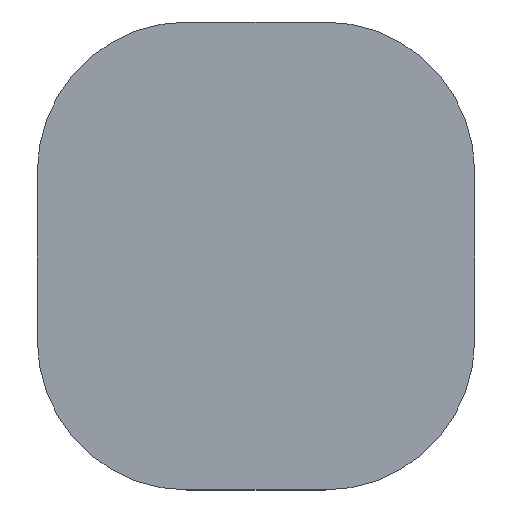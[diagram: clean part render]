
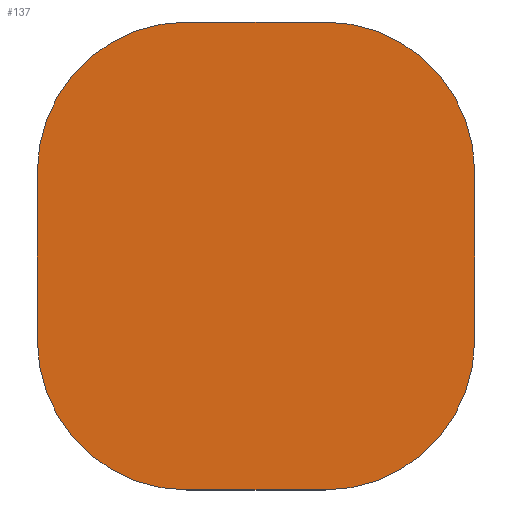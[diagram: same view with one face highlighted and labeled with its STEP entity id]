
A CAD part, top view. The second image highlights one B-rep face of the part: STEP entity #137.
In plain terms, the highlighted planar face has unit normal (0, 0, 1).
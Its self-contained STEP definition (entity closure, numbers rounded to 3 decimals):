
#21 = EDGE_CURVE('',#22,#24,#26,.T.);
#22 = VERTEX_POINT('',#23);
#23 = CARTESIAN_POINT('',(-28.5,17.,11.88));
#24 = VERTEX_POINT('',#25);
#25 = CARTESIAN_POINT('',(-28.5,39.,11.88));
#26 = SURFACE_CURVE('',#27,(#31,#43),.PCURVE_S1.);
#27 = LINE('',#28,#29);
#28 = CARTESIAN_POINT('',(-28.5,-2.5,11.88));
#29 = VECTOR('',#30,1.);
#30 = DIRECTION('',(0.,1.,0.));
#31 = PCURVE('',#32,#37);
#32 = PLANE('',#33);
#33 = AXIS2_PLACEMENT_3D('',#34,#35,#36);
#34 = CARTESIAN_POINT('',(-28.5,-2.5,11.78));
#35 = DIRECTION('',(1.,0.,0.));
#36 = DIRECTION('',(0.,0.,1.));
#37 = DEFINITIONAL_REPRESENTATION('',(#38),#42);
#38 = LINE('',#39,#40);
#39 = CARTESIAN_POINT('',(0.1,0.));
#40 = VECTOR('',#41,1.);
#41 = DIRECTION('',(0.,-1.));
#42 = ( GEOMETRIC_REPRESENTATION_CONTEXT(2) 
PARAMETRIC_REPRESENTATION_CONTEXT() REPRESENTATION_CONTEXT('2D SPACE',''
  ) );
#43 = PCURVE('',#44,#49);
#44 = PLANE('',#45);
#45 = AXIS2_PLACEMENT_3D('',#46,#47,#48);
#46 = CARTESIAN_POINT('',(-28.5,-2.5,11.88));
#47 = DIRECTION('',(0.,0.,1.));
#48 = DIRECTION('',(1.,0.,-0.));
#49 = DEFINITIONAL_REPRESENTATION('',(#50),#54);
#50 = LINE('',#51,#52);
#51 = CARTESIAN_POINT('',(0.,0.));
#52 = VECTOR('',#53,1.);
#53 = DIRECTION('',(0.,1.));
#54 = ( GEOMETRIC_REPRESENTATION_CONTEXT(2) 
PARAMETRIC_REPRESENTATION_CONTEXT() REPRESENTATION_CONTEXT('2D SPACE',''
  ) );
#72 = CYLINDRICAL_SURFACE('',#73,19.5);
#73 = AXIS2_PLACEMENT_3D('',#74,#75,#76);
#74 = CARTESIAN_POINT('',(-9.,17.,11.78));
#75 = DIRECTION('',(0.,0.,1.));
#76 = DIRECTION('',(-1.,-0.,0.));
#126 = CYLINDRICAL_SURFACE('',#127,19.5);
#127 = AXIS2_PLACEMENT_3D('',#128,#129,#130);
#128 = CARTESIAN_POINT('',(-9.,39.,11.78));
#129 = DIRECTION('',(0.,0.,1.));
#130 = DIRECTION('',(-1.,-0.,0.));
#137 = ADVANCED_FACE('',(#138),#44,.T.);
#138 = FACE_BOUND('',#139,.T.);
#139 = EDGE_LOOP('',(#140,#141,#165,#193,#226,#254,#283,#311));
#140 = ORIENTED_EDGE('',*,*,#21,.F.);
#141 = ORIENTED_EDGE('',*,*,#142,.T.);
#142 = EDGE_CURVE('',#22,#143,#145,.T.);
#143 = VERTEX_POINT('',#144);
#144 = CARTESIAN_POINT('',(-9.,-2.5,11.88));
#145 = SURFACE_CURVE('',#146,(#151,#158),.PCURVE_S1.);
#146 = CIRCLE('',#147,19.5);
#147 = AXIS2_PLACEMENT_3D('',#148,#149,#150);
#148 = CARTESIAN_POINT('',(-9.,17.,11.88));
#149 = DIRECTION('',(0.,0.,1.));
#150 = DIRECTION('',(0.,-1.,0.));
#151 = PCURVE('',#44,#152);
#152 = DEFINITIONAL_REPRESENTATION('',(#153),#157);
#153 = CIRCLE('',#154,19.5);
#154 = AXIS2_PLACEMENT_2D('',#155,#156);
#155 = CARTESIAN_POINT('',(19.5,19.5));
#156 = DIRECTION('',(0.,-1.));
#157 = ( GEOMETRIC_REPRESENTATION_CONTEXT(2) 
PARAMETRIC_REPRESENTATION_CONTEXT() REPRESENTATION_CONTEXT('2D SPACE',''
  ) );
#158 = PCURVE('',#72,#159);
#159 = DEFINITIONAL_REPRESENTATION('',(#160),#164);
#160 = LINE('',#161,#162);
#161 = CARTESIAN_POINT('',(-4.712,0.1));
#162 = VECTOR('',#163,1.);
#163 = DIRECTION('',(1.,0.));
#164 = ( GEOMETRIC_REPRESENTATION_CONTEXT(2) 
PARAMETRIC_REPRESENTATION_CONTEXT() REPRESENTATION_CONTEXT('2D SPACE',''
  ) );
#165 = ORIENTED_EDGE('',*,*,#166,.T.);
#166 = EDGE_CURVE('',#143,#167,#169,.T.);
#167 = VERTEX_POINT('',#168);
#168 = CARTESIAN_POINT('',(9.,-2.5,11.88));
#169 = SURFACE_CURVE('',#170,(#174,#181),.PCURVE_S1.);
#170 = LINE('',#171,#172);
#171 = CARTESIAN_POINT('',(-28.5,-2.5,11.88));
#172 = VECTOR('',#173,1.);
#173 = DIRECTION('',(1.,0.,0.));
#174 = PCURVE('',#44,#175);
#175 = DEFINITIONAL_REPRESENTATION('',(#176),#180);
#176 = LINE('',#177,#178);
#177 = CARTESIAN_POINT('',(0.,0.));
#178 = VECTOR('',#179,1.);
#179 = DIRECTION('',(1.,0.));
#180 = ( GEOMETRIC_REPRESENTATION_CONTEXT(2) 
PARAMETRIC_REPRESENTATION_CONTEXT() REPRESENTATION_CONTEXT('2D SPACE',''
  ) );
#181 = PCURVE('',#182,#187);
#182 = PLANE('',#183);
#183 = AXIS2_PLACEMENT_3D('',#184,#185,#186);
#184 = CARTESIAN_POINT('',(-28.5,-2.5,11.78));
#185 = DIRECTION('',(0.,1.,0.));
#186 = DIRECTION('',(0.,-0.,1.));
#187 = DEFINITIONAL_REPRESENTATION('',(#188),#192);
#188 = LINE('',#189,#190);
#189 = CARTESIAN_POINT('',(0.1,0.));
#190 = VECTOR('',#191,1.);
#191 = DIRECTION('',(0.,1.));
#192 = ( GEOMETRIC_REPRESENTATION_CONTEXT(2) 
PARAMETRIC_REPRESENTATION_CONTEXT() REPRESENTATION_CONTEXT('2D SPACE',''
  ) );
#193 = ORIENTED_EDGE('',*,*,#194,.F.);
#194 = EDGE_CURVE('',#195,#167,#197,.T.);
#195 = VERTEX_POINT('',#196);
#196 = CARTESIAN_POINT('',(28.5,17.,11.88));
#197 = SURFACE_CURVE('',#198,(#203,#214),.PCURVE_S1.);
#198 = CIRCLE('',#199,19.5);
#199 = AXIS2_PLACEMENT_3D('',#200,#201,#202);
#200 = CARTESIAN_POINT('',(9.,17.,11.88));
#201 = DIRECTION('',(-0.,-0.,-1.));
#202 = DIRECTION('',(0.,-1.,0.));
#203 = PCURVE('',#44,#204);
#204 = DEFINITIONAL_REPRESENTATION('',(#205),#213);
#205 = ( BOUNDED_CURVE() B_SPLINE_CURVE(2,(#206,#207,#208,#209,#210,#211
,#212),.UNSPECIFIED.,.T.,.F.) B_SPLINE_CURVE_WITH_KNOTS((1,2,2,2,2,1),(
    -2.094,0.,2.094,4.189,6.283,
8.378),.UNSPECIFIED.) CURVE() GEOMETRIC_REPRESENTATION_ITEM() 
RATIONAL_B_SPLINE_CURVE((1.,0.5,1.,0.5,1.,0.5,1.)) REPRESENTATION_ITEM(
  '') );
#206 = CARTESIAN_POINT('',(37.5,0.));
#207 = CARTESIAN_POINT('',(3.725,0.));
#208 = CARTESIAN_POINT('',(20.613,29.25));
#209 = CARTESIAN_POINT('',(37.5,58.5));
#210 = CARTESIAN_POINT('',(54.387,29.25));
#211 = CARTESIAN_POINT('',(71.275,0.));
#212 = CARTESIAN_POINT('',(37.5,0.));
#213 = ( GEOMETRIC_REPRESENTATION_CONTEXT(2) 
PARAMETRIC_REPRESENTATION_CONTEXT() REPRESENTATION_CONTEXT('2D SPACE',''
  ) );
#214 = PCURVE('',#215,#220);
#215 = CYLINDRICAL_SURFACE('',#216,19.5);
#216 = AXIS2_PLACEMENT_3D('',#217,#218,#219);
#217 = CARTESIAN_POINT('',(9.,17.,11.78));
#218 = DIRECTION('',(0.,0.,1.));
#219 = DIRECTION('',(1.,0.,-0.));
#220 = DEFINITIONAL_REPRESENTATION('',(#221),#225);
#221 = LINE('',#222,#223);
#222 = CARTESIAN_POINT('',(10.996,0.1));
#223 = VECTOR('',#224,1.);
#224 = DIRECTION('',(-1.,0.));
#225 = ( GEOMETRIC_REPRESENTATION_CONTEXT(2) 
PARAMETRIC_REPRESENTATION_CONTEXT() REPRESENTATION_CONTEXT('2D SPACE',''
  ) );
#226 = ORIENTED_EDGE('',*,*,#227,.T.);
#227 = EDGE_CURVE('',#195,#228,#230,.T.);
#228 = VERTEX_POINT('',#229);
#229 = CARTESIAN_POINT('',(28.5,39.,11.88));
#230 = SURFACE_CURVE('',#231,(#235,#242),.PCURVE_S1.);
#231 = LINE('',#232,#233);
#232 = CARTESIAN_POINT('',(28.5,-2.5,11.88));
#233 = VECTOR('',#234,1.);
#234 = DIRECTION('',(0.,1.,0.));
#235 = PCURVE('',#44,#236);
#236 = DEFINITIONAL_REPRESENTATION('',(#237),#241);
#237 = LINE('',#238,#239);
#238 = CARTESIAN_POINT('',(57.,0.));
#239 = VECTOR('',#240,1.);
#240 = DIRECTION('',(0.,1.));
#241 = ( GEOMETRIC_REPRESENTATION_CONTEXT(2) 
PARAMETRIC_REPRESENTATION_CONTEXT() REPRESENTATION_CONTEXT('2D SPACE',''
  ) );
#242 = PCURVE('',#243,#248);
#243 = PLANE('',#244);
#244 = AXIS2_PLACEMENT_3D('',#245,#246,#247);
#245 = CARTESIAN_POINT('',(28.5,-2.5,11.78));
#246 = DIRECTION('',(1.,0.,0.));
#247 = DIRECTION('',(0.,0.,1.));
#248 = DEFINITIONAL_REPRESENTATION('',(#249),#253);
#249 = LINE('',#250,#251);
#250 = CARTESIAN_POINT('',(0.1,0.));
#251 = VECTOR('',#252,1.);
#252 = DIRECTION('',(0.,-1.));
#253 = ( GEOMETRIC_REPRESENTATION_CONTEXT(2) 
PARAMETRIC_REPRESENTATION_CONTEXT() REPRESENTATION_CONTEXT('2D SPACE',''
  ) );
#254 = ORIENTED_EDGE('',*,*,#255,.T.);
#255 = EDGE_CURVE('',#228,#256,#258,.T.);
#256 = VERTEX_POINT('',#257);
#257 = CARTESIAN_POINT('',(9.,58.5,11.88));
#258 = SURFACE_CURVE('',#259,(#264,#271),.PCURVE_S1.);
#259 = CIRCLE('',#260,19.5);
#260 = AXIS2_PLACEMENT_3D('',#261,#262,#263);
#261 = CARTESIAN_POINT('',(9.,39.,11.88));
#262 = DIRECTION('',(0.,0.,1.));
#263 = DIRECTION('',(0.,-1.,0.));
#264 = PCURVE('',#44,#265);
#265 = DEFINITIONAL_REPRESENTATION('',(#266),#270);
#266 = CIRCLE('',#267,19.5);
#267 = AXIS2_PLACEMENT_2D('',#268,#269);
#268 = CARTESIAN_POINT('',(37.5,41.5));
#269 = DIRECTION('',(0.,-1.));
#270 = ( GEOMETRIC_REPRESENTATION_CONTEXT(2) 
PARAMETRIC_REPRESENTATION_CONTEXT() REPRESENTATION_CONTEXT('2D SPACE',''
  ) );
#271 = PCURVE('',#272,#277);
#272 = CYLINDRICAL_SURFACE('',#273,19.5);
#273 = AXIS2_PLACEMENT_3D('',#274,#275,#276);
#274 = CARTESIAN_POINT('',(9.,39.,11.78));
#275 = DIRECTION('',(0.,0.,1.));
#276 = DIRECTION('',(1.,0.,-0.));
#277 = DEFINITIONAL_REPRESENTATION('',(#278),#282);
#278 = LINE('',#279,#280);
#279 = CARTESIAN_POINT('',(-1.571,0.1));
#280 = VECTOR('',#281,1.);
#281 = DIRECTION('',(1.,0.));
#282 = ( GEOMETRIC_REPRESENTATION_CONTEXT(2) 
PARAMETRIC_REPRESENTATION_CONTEXT() REPRESENTATION_CONTEXT('2D SPACE',''
  ) );
#283 = ORIENTED_EDGE('',*,*,#284,.F.);
#284 = EDGE_CURVE('',#285,#256,#287,.T.);
#285 = VERTEX_POINT('',#286);
#286 = CARTESIAN_POINT('',(-9.,58.5,11.88));
#287 = SURFACE_CURVE('',#288,(#292,#299),.PCURVE_S1.);
#288 = LINE('',#289,#290);
#289 = CARTESIAN_POINT('',(-28.5,58.5,11.88));
#290 = VECTOR('',#291,1.);
#291 = DIRECTION('',(1.,0.,0.));
#292 = PCURVE('',#44,#293);
#293 = DEFINITIONAL_REPRESENTATION('',(#294),#298);
#294 = LINE('',#295,#296);
#295 = CARTESIAN_POINT('',(0.,61.));
#296 = VECTOR('',#297,1.);
#297 = DIRECTION('',(1.,0.));
#298 = ( GEOMETRIC_REPRESENTATION_CONTEXT(2) 
PARAMETRIC_REPRESENTATION_CONTEXT() REPRESENTATION_CONTEXT('2D SPACE',''
  ) );
#299 = PCURVE('',#300,#305);
#300 = PLANE('',#301);
#301 = AXIS2_PLACEMENT_3D('',#302,#303,#304);
#302 = CARTESIAN_POINT('',(-28.5,58.5,11.78));
#303 = DIRECTION('',(0.,1.,0.));
#304 = DIRECTION('',(0.,-0.,1.));
#305 = DEFINITIONAL_REPRESENTATION('',(#306),#310);
#306 = LINE('',#307,#308);
#307 = CARTESIAN_POINT('',(0.1,0.));
#308 = VECTOR('',#309,1.);
#309 = DIRECTION('',(0.,1.));
#310 = ( GEOMETRIC_REPRESENTATION_CONTEXT(2) 
PARAMETRIC_REPRESENTATION_CONTEXT() REPRESENTATION_CONTEXT('2D SPACE',''
  ) );
#311 = ORIENTED_EDGE('',*,*,#312,.F.);
#312 = EDGE_CURVE('',#24,#285,#313,.T.);
#313 = SURFACE_CURVE('',#314,(#319,#330),.PCURVE_S1.);
#314 = CIRCLE('',#315,19.5);
#315 = AXIS2_PLACEMENT_3D('',#316,#317,#318);
#316 = CARTESIAN_POINT('',(-9.,39.,11.88));
#317 = DIRECTION('',(-0.,-0.,-1.));
#318 = DIRECTION('',(0.,-1.,0.));
#319 = PCURVE('',#44,#320);
#320 = DEFINITIONAL_REPRESENTATION('',(#321),#329);
#321 = ( BOUNDED_CURVE() B_SPLINE_CURVE(2,(#322,#323,#324,#325,#326,#327
,#328),.UNSPECIFIED.,.T.,.F.) B_SPLINE_CURVE_WITH_KNOTS((1,2,2,2,2,1),(
    -2.094,0.,2.094,4.189,6.283,
8.378),.UNSPECIFIED.) CURVE() GEOMETRIC_REPRESENTATION_ITEM() 
RATIONAL_B_SPLINE_CURVE((1.,0.5,1.,0.5,1.,0.5,1.)) REPRESENTATION_ITEM(
  '') );
#322 = CARTESIAN_POINT('',(19.5,22.));
#323 = CARTESIAN_POINT('',(-14.275,22.));
#324 = CARTESIAN_POINT('',(2.613,51.25));
#325 = CARTESIAN_POINT('',(19.5,80.5));
#326 = CARTESIAN_POINT('',(36.387,51.25));
#327 = CARTESIAN_POINT('',(53.275,22.));
#328 = CARTESIAN_POINT('',(19.5,22.));
#329 = ( GEOMETRIC_REPRESENTATION_CONTEXT(2) 
PARAMETRIC_REPRESENTATION_CONTEXT() REPRESENTATION_CONTEXT('2D SPACE',''
  ) );
#330 = PCURVE('',#126,#331);
#331 = DEFINITIONAL_REPRESENTATION('',(#332),#336);
#332 = LINE('',#333,#334);
#333 = CARTESIAN_POINT('',(7.854,0.1));
#334 = VECTOR('',#335,1.);
#335 = DIRECTION('',(-1.,0.));
#336 = ( GEOMETRIC_REPRESENTATION_CONTEXT(2) 
PARAMETRIC_REPRESENTATION_CONTEXT() REPRESENTATION_CONTEXT('2D SPACE',''
  ) );
